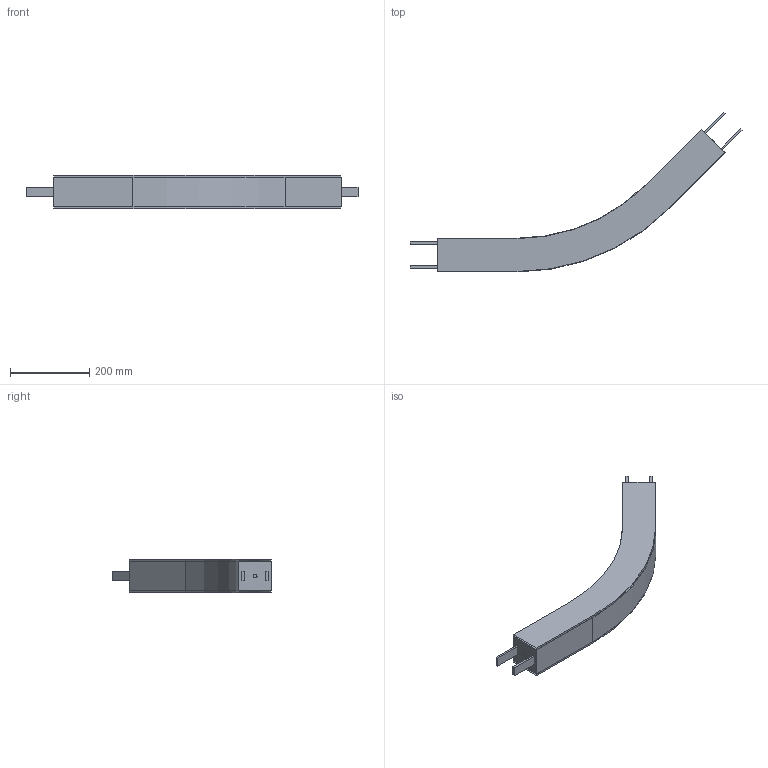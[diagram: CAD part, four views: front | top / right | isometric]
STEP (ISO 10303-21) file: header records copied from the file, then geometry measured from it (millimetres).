
FILE_DESCRIPTION(/* description */ ('Horizontaler Gleitbogen, 45°, R500'),/* implementation_level */ '2;1');
FILE_NAME(/* name */ 'T:\vdz0\Step Daten Website\modulflex FM-System\Horizontale Gleitbögen\FMBP 45R500_43818.stp',/* time_stamp */ '2024-09-03T10:27:27+02:00',/* author */ ('lzb0'),/* organization */ ('modular automation GmbH'),/* preprocessor_version */ 'ST-DEVELOPER v18.1',/* originating_system */ 'Autodesk Inventor 2021',/* authorisation */ '');
FILE_SCHEMA (('AUTOMOTIVE_DESIGN { 1 0 10303 214 3 1 1 }'));
Length unit declared in the file: millimetre
Products named in the file (1): FMBP 45R500
Bounding box: 837.81 x 403.2 x 85 mm (x, y, z)
Volume: 5137456.6 mm3; surface area: 581992.1 mm2
Topology: 5 solids, 9 shells, 52 faces, 126 edges, 84 vertices
Faces by surface type: plane 44, cylinder 8
Full cylindrical faces by diameter (mm): 10 x2
Entity records: 1596 total; most frequent: CARTESIAN_POINT 270, DIRECTION 250, ORIENTED_EDGE 232, EDGE_CURVE 126, LINE 110, VECTOR 110, VERTEX_POINT 84, AXIS2_PLACEMENT_3D 70
